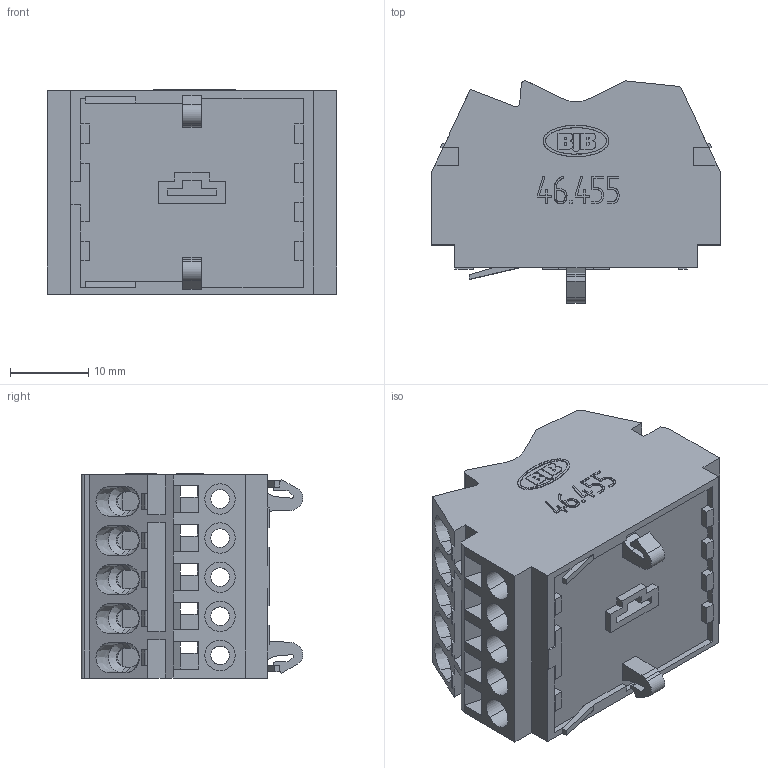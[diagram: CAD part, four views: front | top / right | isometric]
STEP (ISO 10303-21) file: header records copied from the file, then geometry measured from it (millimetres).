
FILE_DESCRIPTION((' '),'1');
FILE_NAME('00TYQ16Y02.stp','2011-06-17 T09:47:22',(''),(''),'STEP Interface v1.0 by CT CoreTechnologie','3D_Evolution v1.0 by CT CoreTechnologie','');
FILE_SCHEMA(('CONFIG_CONTROL_DESIGN'));
Length unit declared in the file: millimetre
Products named in the file (1): 1
Bounding box: 37 x 28.38 x 26.1 mm (x, y, z)
Volume: 9770 mm3; surface area: 12638.3 mm2
Topology: 1 solids, 1 shells, 892 faces, 2460 edges, 1591 vertices
Faces by surface type: plane 628, bspline 133, cylinder 131
Entity records: 44528 total; most frequent: CARTESIAN_POINT 14097, ORIENTED_EDGE 4920, DIRECTION 4199, EDGE_CURVE 2460, VECTOR 1969, LINE 1969, VERTEX_POINT 1591, AXIS2_PLACEMENT_3D 1115
